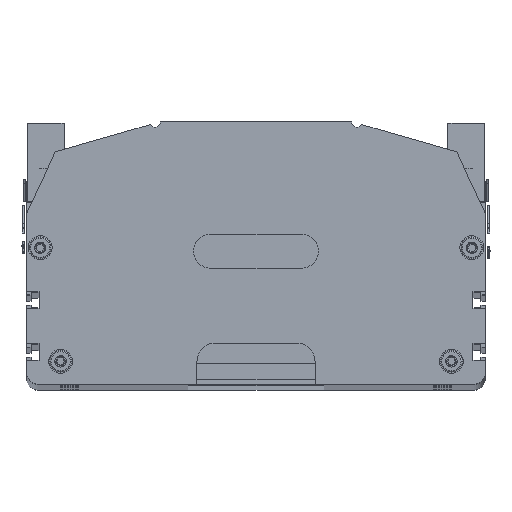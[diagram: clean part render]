
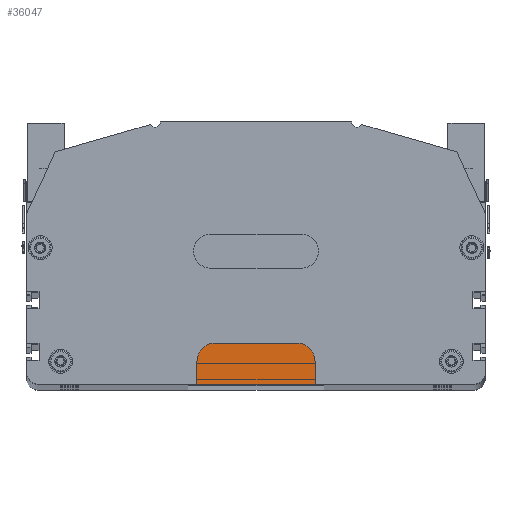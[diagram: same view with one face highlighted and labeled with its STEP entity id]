
A CAD part, top view. The second image highlights one B-rep face of the part: STEP entity #36047.
In plain terms, the highlighted planar face has unit normal (0, 0, 1).
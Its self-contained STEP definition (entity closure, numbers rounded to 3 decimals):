
#24836 = LINE ( 'NONE', #24961, #25168 ) ;
#24879 = CARTESIAN_POINT ( 'NONE',  ( -26., -32.75, 6. ) ) ;
#24915 = CARTESIAN_POINT ( 'NONE',  ( 26., -32.75, 6. ) ) ;
#24959 = DIRECTION ( 'NONE',  ( 1., 0., 0. ) ) ;
#24961 = CARTESIAN_POINT ( 'NONE',  ( -26., -32.75, 6. ) ) ;
#25168 = VECTOR ( 'NONE', #24959, 1000. ) ;
#25931 = EDGE_CURVE ( 'NONE', #25939, #25946, #24836, .T. ) ;
#25939 = VERTEX_POINT ( 'NONE', #24879 ) ;
#25946 = VERTEX_POINT ( 'NONE', #24915 ) ;
#28307 = DIRECTION ( 'NONE',  ( 0., 1., 0. ) ) ;
#28308 = VECTOR ( 'NONE', #28307, 1000. ) ;
#28309 = CARTESIAN_POINT ( 'NONE',  ( 26., -22.75, 6. ) ) ;
#28310 = LINE ( 'NONE', #28309, #28308 ) ;
#28314 = CARTESIAN_POINT ( 'NONE',  ( -26., -22.75, 6. ) ) ;
#28324 = CARTESIAN_POINT ( 'NONE',  ( 26., -22.75, 6. ) ) ;
#29658 = LINE ( 'NONE', #29954, #29953 ) ;
#29952 = DIRECTION ( 'NONE',  ( 0., -1., 0. ) ) ;
#29953 = VECTOR ( 'NONE', #29952, 1000. ) ;
#29954 = CARTESIAN_POINT ( 'NONE',  ( -26., -22.75, 6. ) ) ;
#35770 = EDGE_CURVE ( 'NONE', #25946, #35799, #28310, .T. ) ;
#35772 = VERTEX_POINT ( 'NONE', #28314 ) ;
#35799 = VERTEX_POINT ( 'NONE', #28324 ) ;
#35980 = EDGE_CURVE ( 'NONE', #35772, #25939, #29658, .T. ) ;
#36047 = ADVANCED_FACE ( 'NONE', ( #71457 ), #71514, .T. ) ;
#36048 = ORIENTED_EDGE ( 'NONE', *, *, #35980, .T. ) ;
#36049 = ORIENTED_EDGE ( 'NONE', *, *, #36059, .T. ) ;
#36053 = ORIENTED_EDGE ( 'NONE', *, *, #36085, .T. ) ;
#36059 = EDGE_CURVE ( 'NONE', #36084, #36236, #71435, .T. ) ;
#36084 = VERTEX_POINT ( 'NONE', #71524 ) ;
#36085 = EDGE_CURVE ( 'NONE', #36236, #35772, #71558, .T. ) ;
#36088 = ORIENTED_EDGE ( 'NONE', *, *, #25931, .T. ) ;
#36127 = EDGE_CURVE ( 'NONE', #35799, #36084, #61654, .T. ) ;
#36128 = ORIENTED_EDGE ( 'NONE', *, *, #36127, .T. ) ;
#36130 = ORIENTED_EDGE ( 'NONE', *, *, #35770, .T. ) ;
#36131 = EDGE_LOOP ( 'NONE', ( #36130, #36128, #36049, #36053, #36048, #36088 ) ) ;
#36236 = VERTEX_POINT ( 'NONE', #62124 ) ;
#61651 = CARTESIAN_POINT ( 'NONE',  ( 18., -22.75, 6. ) ) ;
#61654 = CIRCLE ( 'NONE', #61957, 8. ) ;
#61680 = DIRECTION ( 'NONE',  ( 0., 0., 1. ) ) ;
#61832 = DIRECTION ( 'NONE',  ( 1., 0., 0. ) ) ;
#61957 = AXIS2_PLACEMENT_3D ( 'NONE', #61651, #61680, #61832 ) ;
#62124 = CARTESIAN_POINT ( 'NONE',  ( -18., -14.75, 6. ) ) ;
#71434 = CARTESIAN_POINT ( 'NONE',  ( -18., -22.75, 6. ) ) ;
#71435 = LINE ( 'NONE', #71467, #71466 ) ;
#71457 = FACE_OUTER_BOUND ( 'NONE', #36131, .T. ) ;
#71465 = DIRECTION ( 'NONE',  ( -1., 0., 0. ) ) ;
#71466 = VECTOR ( 'NONE', #71465, 1000. ) ;
#71467 = CARTESIAN_POINT ( 'NONE',  ( -18., -14.75, 6. ) ) ;
#71500 = DIRECTION ( 'NONE',  ( 1., 0., 0. ) ) ;
#71501 = AXIS2_PLACEMENT_3D ( 'NONE', #71505, #71527, #71500 ) ;
#71505 = CARTESIAN_POINT ( 'NONE',  ( -18., -22.75, 6. ) ) ;
#71514 = PLANE ( 'NONE',  #71566 ) ;
#71524 = CARTESIAN_POINT ( 'NONE',  ( 18., -14.75, 6. ) ) ;
#71527 = DIRECTION ( 'NONE',  ( 0., 0., 1. ) ) ;
#71558 = CIRCLE ( 'NONE', #71501, 8. ) ;
#71566 = AXIS2_PLACEMENT_3D ( 'NONE', #71434, #71575, #71574 ) ;
#71574 = DIRECTION ( 'NONE',  ( 1., 0., 0. ) ) ;
#71575 = DIRECTION ( 'NONE',  ( 0., 0., 1. ) ) ;
